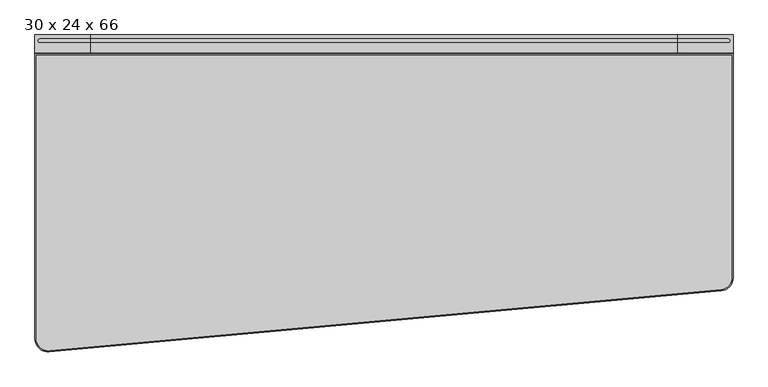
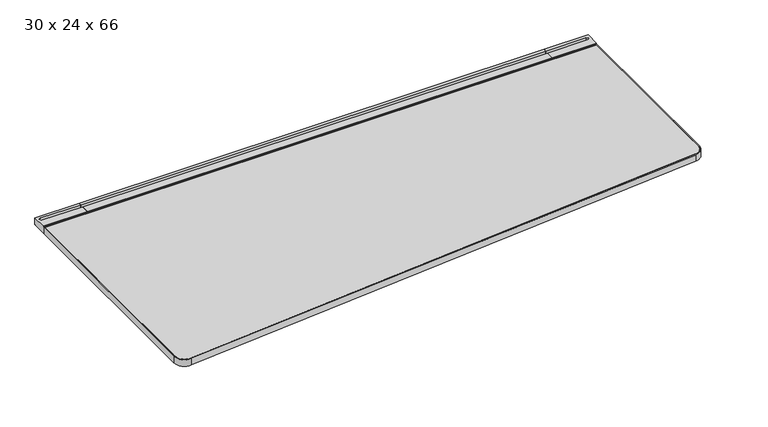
"""IFC4 building model written with IfcOpenShell, lengths in millimetres: furniture geometry, Steelcase - C Scape - Desking - Left Hand Tapered : 30 x 24 x 66."""

from ifc_helpers import new_model, si_unit, point, frame, frame_2d, origin, place, context, project, spatial, polyline, circle_curve, trimmed, segment, composite_curve, outline, extrude, faceted_brep, source, transform, mapped, element, save
from ifc_brep_helpers import plane_surface, cylinder_surface, revolved_surface, advanced_brep


def furniture_30_x_24_x_66_3c1ac4ce(model_context):
    return source(origin(), model_context, "Body", "SolidModel", [
        advanced_brep(
        [(134.6072876, -45.3135132, 703.3768), (134.6072876, -4.0331902, 703.3768), (134.6072876, -3.2278472, 705.1038636), (134.6072876, 0.0, 705.1038636), (134.6072876, 0.0, 725.932), (134.6072876, -8.5111084, 725.932), (134.6072876, -8.5111084, 713.486), (134.6072876, -19.3290527, 713.486), (134.6072876, -19.3290527, 725.932), (134.6072876, -42.7750923, 725.932), (134.6072876, -42.7750923, 722.4268341), (134.6072876, -45.3135132, 722.4268341), (1.5875, -45.3135132, 703.3768), (1.5875, -45.3135132, 722.4268341), (1.5875, -42.7750923, 722.4268341), (1.5875, -42.7750923, 725.932), (1.5875, 0.0, 725.932), (1.5875, 0.0, 705.1038636), (1.5875, -3.2278472, 705.1038636), (1.5875, -4.0331902, 703.3768), (13.3495728, -19.3290527, 725.932), (13.3495728, -8.5111084, 725.932), (13.3495728, -8.5111084, 713.486), (13.3495728, -19.3290527, 713.486)],
        [
            (0, 1),
            (1, 2),
            (2, 3),
            (3, 4),
            (4, 5),
            (5, 6),
            (6, 7),
            (7, 8),
            (8, 9),
            (9, 10),
            (10, 11),
            (11, 0),
            (12, 13),
            (13, 14),
            (14, 15),
            (15, 16),
            (16, 17),
            (17, 18),
            (18, 19),
            (19, 12),
            (0, 12),
            (19, 1),
            (18, 2),
            (17, 3),
            (16, 4),
            (15, 9),
            (8, 20),
            (20, 21, circle_curve(frame((13.3495728, -13.9200806, 725.932), z_axis=(0.0, 0.0, -1.0), x_axis=(1.0, 0.0, 0.0)), 5.4089722)),
            (21, 5),
            (14, 10),
            (13, 11),
            (6, 22),
            (22, 23, circle_curve(frame((13.3495728, -13.9200806, 713.486), z_axis=(0.0, 0.0, 1.0), x_axis=(1.0, 0.0, 0.0)), 5.4089722)),
            (23, 7),
            (21, 22),
            (20, 23),
        ],
        [
            plane_surface(frame((134.6072876, -45.3135132, 703.3768), z_axis=(1.0, 0.0, 0.0), x_axis=(0.0, 1.0, 0.0))),
            plane_surface(frame((1.5875, -45.3135132, 703.3768), z_axis=(-1.0, 0.0, 0.0), x_axis=(0.0, -1.0, 0.0))),
            plane_surface(frame((134.6072876, -45.3135132, 703.3768), z_axis=(0.0, 0.0, -1.0), x_axis=(-1.0, 0.0, 0.0))),
            plane_surface(frame((134.6072876, -4.0331902, 703.3768), z_axis=(0.0, 0.9063077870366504, -0.4226182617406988), x_axis=(-1.0, 0.0, 0.0))),
            plane_surface(frame((134.6072876, -3.2278472, 705.1038636), z_axis=(0.0, 0.0, -1.0), x_axis=(-1.0, 0.0, 0.0))),
            plane_surface(frame((134.6072876, 0.0, 705.1038636), z_axis=(0.0, 1.0, 0.0), x_axis=(-1.0, 0.0, 0.0))),
            plane_surface(frame((134.6072876, 0.0, 725.932), z_axis=(0.0, 0.0, 1.0), x_axis=(-1.0, 0.0, 0.0))),
            plane_surface(frame((134.6072876, -42.7750923, 725.932), z_axis=(0.0, -1.0, 0.0), x_axis=(-1.0, 0.0, 0.0))),
            plane_surface(frame((134.6072876, -42.7750923, 722.4268341), z_axis=(0.0, 0.0, 1.0), x_axis=(-1.0, 0.0, 0.0))),
            plane_surface(frame((134.6072876, -45.3135132, 722.4268341), z_axis=(0.0, -1.0, 0.0), x_axis=(-1.0, 0.0, 0.0))),
            plane_surface(frame((13.3495728, -8.5111084, 713.486), z_axis=(0.0, 0.0, 1.0), x_axis=(1.0, 0.0, 0.0))),
            plane_surface(frame((134.6072876, -8.5111084, 731.2180541), z_axis=(0.0, -1.0, 0.0), x_axis=(0.0, 0.0, -1.0))),
            revolved_surface(polyline([(18.758545, -13.9200806, 725.932), (18.758545, -13.9200806, 713.486)]), (13.3495728, -13.9200806, 713.486), (0.0, 0.0, 1.0)),
            plane_surface(frame((13.3495728, -19.3290527, 731.2180541), z_axis=(0.0, 1.0, 0.0), x_axis=(0.0, 0.0, -1.0))),
        ],
        [
            (0, [[1, 2, 3, 4, 5, 6, 7, 8, 9, 10, 11, 12]]),
            (1, [[13, 14, 15, 16, 17, 18, 19, 20]]),
            (2, [[-1, 21, -20, 22]]),
            (3, [[-2, -22, -19, 23]]),
            (4, [[-3, -23, -18, 24]]),
            (5, [[-4, -24, -17, 25]]),
            (6, [[-16, 26, -9, 27, 28, 29, -5, -25]]),
            (7, [[-10, -26, -15, 30]]),
            (8, [[-11, -30, -14, 31]]),
            (9, [[-12, -31, -13, -21]]),
            (10, [[32, 33, 34, -7]]),
            (11, [[-32, -6, -29, 35]]),
            (12, [[-33, -35, -28, 36]]),
            (13, [[-34, -36, -27, -8]]),
        ],
    ),
        faceted_brep([(20.6382632, -565.0752923, 700.7093833), (34.9133728, -565.0752923, 693.4200291), (116.3525879, -565.0752923, 693.4200291), (118.9731301, -565.0752923, 679.3263935), (134.6072876, -565.0752923, 679.3263935), (134.6072876, -565.0752923, 703.3768), (20.6382632, -565.0752923, 703.3768), (20.6382632, -4.0331902, 700.7093833), (20.6382632, -4.0331902, 703.3768), (134.6072876, -4.0331902, 703.3768), (134.6072876, -4.0331902, 629.3866), (128.2588347, -4.0331902, 629.3866), (116.3525879, -4.0331902, 693.4200291), (34.9133728, -4.0331902, 693.4200291), (128.2588347, -364.1172546, 629.3866), (121.1384051, -376.5599397, 667.6812472), (134.6072876, -364.1172546, 629.3866), (134.6072876, -376.5599397, 667.6812472)], [[[0, 1, 2, 3, 4, 5, 6]], [[7, 8, 9, 10, 11, 12, 13]], [[1, 0, 7, 13]], [[2, 1, 13, 12]], [[12, 11, 14, 15, 3, 2]], [[11, 10, 16, 14]], [[10, 9, 5, 4, 17, 16]], [[6, 5, 9, 8]], [[0, 6, 8, 7]], [[15, 17, 4, 3]], [[17, 15, 14, 16]]]),
        extrude(outline(composite_curve([segment(polyline([(-293.5216187, 657.3775839), (-559.0022133, 680.1371551)]), True, "CONTINUOUS"), segment(trimmed(circle_curve(frame_2d((-558.7581271, 682.9843154)), 2.8576039), [point((-559.0022133, 680.1371551))], [point((-561.5383043, 682.3236226))], False, "CARTESIAN"), True, "CONTINUOUS"), segment(polyline([(-561.5383043, 682.3236226), (-566.0887542, 701.4717905), (-557.8334441, 701.4717905), (-557.8334441, 703.3768), (-442.6683806, 703.3768), (-442.6683806, 696.3917953), (-318.2108611, 696.3917953), (-318.2108611, 703.3768), (-293.5216187, 703.3768), (-293.5216187, 657.3775839)]), True, "CONTINUOUS")], self_intersect=False)), frame((801.624, 0.0, 0.0), z_axis=(1.0, 0.0, 0.0), x_axis=(0.0, 1.0, 0.0)), (0.0, 0.0, 1.0), 73.152),
        advanced_brep(
        [(1541.7927124, -45.3135132, 703.3768), (1541.7927124, -45.3135132, 722.4268341), (1541.7927124, -42.7750923, 722.4268341), (1541.7927124, -42.7750923, 725.932), (1541.7927124, -19.3290527, 725.932), (1541.7927124, -19.3290527, 713.486), (1541.7927124, -8.5111084, 713.486), (1541.7927124, -8.5111084, 725.932), (1541.7927124, 0.0, 725.932), (1541.7927124, 0.0, 705.1038636), (1541.7927124, -3.2278472, 705.1038636), (1541.7927124, -4.0331902, 703.3768), (1674.8125, -45.3135132, 703.3768), (1674.8125, -4.0331902, 703.3768), (1674.8125, -3.2278472, 705.1038636), (1674.8125, 0.0, 705.1038636), (1674.8125, 0.0, 725.932), (1674.8125, -42.7750923, 725.932), (1674.8125, -42.7750923, 722.4268341), (1674.8125, -45.3135132, 722.4268341), (1663.0504272, -8.5111084, 725.932), (1663.0504272, -19.3290527, 725.932), (1663.0504272, -19.3290527, 713.486), (1663.0504272, -8.5111084, 713.486)],
        [
            (0, 1),
            (1, 2),
            (2, 3),
            (3, 4),
            (4, 5),
            (5, 6),
            (6, 7),
            (7, 8),
            (8, 9),
            (9, 10),
            (10, 11),
            (11, 0),
            (12, 13),
            (13, 14),
            (14, 15),
            (15, 16),
            (16, 17),
            (17, 18),
            (18, 19),
            (19, 12),
            (11, 13),
            (12, 0),
            (10, 14),
            (9, 15),
            (8, 16),
            (7, 20),
            (20, 21, circle_curve(frame((1663.0504272, -13.9200806, 725.932), z_axis=(0.0, 0.0, -1.0), x_axis=(-1.0, 0.0, 0.0)), 5.4089722)),
            (21, 4),
            (3, 17),
            (2, 18),
            (1, 19),
            (5, 22),
            (22, 23, circle_curve(frame((1663.0504272, -13.9200806, 713.486), z_axis=(0.0, 0.0, 1.0), x_axis=(-1.0, 0.0, 0.0)), 5.4089722)),
            (23, 6),
            (23, 20),
            (22, 21),
        ],
        [
            plane_surface(frame((1541.7927124, -45.3135132, 703.3768), z_axis=(-1.0, 0.0, 0.0), x_axis=(0.0, 1.0, 0.0))),
            plane_surface(frame((1674.8125, -45.3135132, 703.3768), z_axis=(1.0, 0.0, 0.0), x_axis=(0.0, -1.0, 0.0))),
            plane_surface(frame((1541.7927124, -45.3135132, 703.3768), z_axis=(0.0, 0.0, -1.0), x_axis=(1.0, 0.0, 0.0))),
            plane_surface(frame((1541.7927124, -4.0331902, 703.3768), z_axis=(0.0, 0.9063077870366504, -0.4226182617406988), x_axis=(1.0, 0.0, 0.0))),
            plane_surface(frame((1541.7927124, -3.2278472, 705.1038636), z_axis=(0.0, 0.0, -1.0), x_axis=(1.0, 0.0, 0.0))),
            plane_surface(frame((1541.7927124, 0.0, 705.1038636), z_axis=(0.0, 1.0, 0.0), x_axis=(1.0, 0.0, 0.0))),
            plane_surface(frame((1541.7927124, 0.0, 725.932), z_axis=(0.0, 0.0, 1.0), x_axis=(1.0, 0.0, 0.0))),
            plane_surface(frame((1541.7927124, -42.7750923, 725.932), z_axis=(0.0, -1.0, 0.0), x_axis=(1.0, 0.0, 0.0))),
            plane_surface(frame((1541.7927124, -42.7750923, 722.4268341), z_axis=(0.0, 0.0, 1.0), x_axis=(1.0, 0.0, 0.0))),
            plane_surface(frame((1541.7927124, -45.3135132, 722.4268341), z_axis=(0.0, -1.0, 0.0), x_axis=(1.0, 0.0, 0.0))),
            plane_surface(frame((1663.0504272, -8.5111084, 713.486), z_axis=(0.0, 0.0, 1.0), x_axis=(-1.0, 0.0, 0.0))),
            plane_surface(frame((1541.7927124, -8.5111084, 731.2180541), z_axis=(0.0, -1.0, 0.0), x_axis=(0.0, 0.0, -1.0))),
            revolved_surface(polyline([(1657.641455, -13.9200806, 725.932), (1657.641455, -13.9200806, 713.486)]), (1663.0504272, -13.9200806, 713.486), (0.0, 0.0, 1.0)),
            plane_surface(frame((1663.0504272, -19.3290527, 731.2180541), z_axis=(0.0, 1.0, 0.0), x_axis=(0.0, 0.0, -1.0))),
        ],
        [
            (0, [[1, 2, 3, 4, 5, 6, 7, 8, 9, 10, 11, 12]]),
            (1, [[13, 14, 15, 16, 17, 18, 19, 20]]),
            (2, [[21, -13, 22, -12]]),
            (3, [[23, -14, -21, -11]]),
            (4, [[24, -15, -23, -10]]),
            (5, [[25, -16, -24, -9]]),
            (6, [[-25, -8, 26, 27, 28, -4, 29, -17]]),
            (7, [[30, -18, -29, -3]]),
            (8, [[31, -19, -30, -2]]),
            (9, [[-22, -20, -31, -1]]),
            (10, [[-6, 32, 33, 34]]),
            (11, [[35, -26, -7, -34]]),
            (12, [[36, -27, -35, -33]]),
            (13, [[-5, -28, -36, -32]]),
        ],
    ),
        faceted_brep([(1655.7617368, -565.0752923, 700.7093833), (1655.7617368, -565.0752923, 703.3768), (1541.7927124, -565.0752923, 703.3768), (1541.7927124, -565.0752923, 679.3263935), (1557.4268699, -565.0752923, 679.3263935), (1560.0474121, -565.0752923, 693.4200291), (1641.4866272, -565.0752923, 693.4200291), (1655.7617368, -4.0331902, 700.7093833), (1641.4866272, -4.0331902, 693.4200291), (1560.0474121, -4.0331902, 693.4200291), (1548.1411653, -4.0331902, 629.3866), (1541.7927124, -4.0331902, 629.3866), (1541.7927124, -4.0331902, 703.3768), (1655.7617368, -4.0331902, 703.3768), (1555.2615949, -376.5599397, 667.6812472), (1548.1411653, -364.1172546, 629.3866), (1541.7927124, -364.1172546, 629.3866), (1541.7927124, -376.5599397, 667.6812472)], [[[0, 1, 2, 3, 4, 5, 6]], [[7, 8, 9, 10, 11, 12, 13]], [[6, 8, 7, 0]], [[5, 9, 8, 6]], [[9, 5, 4, 14, 15, 10]], [[10, 15, 16, 11]], [[11, 16, 17, 3, 2, 12]], [[1, 13, 12, 2]], [[0, 7, 13, 1]], [[14, 4, 3, 17]], [[17, 16, 15, 14]]]),
        extrude(outline(polyline([(-8.5111084, 725.932), (0.0, 725.932), (0.0, 705.1038636), (-3.2278472, 705.1038636), (-4.0331902, 703.3768), (-45.3135132, 703.3768), (-45.3135132, 722.4268341), (-42.7750923, 722.4268341), (-42.7750923, 725.932), (-19.3290527, 725.932), (-19.3290527, 713.486), (-8.5111084, 713.486), (-8.5111084, 725.932)])), frame((134.6072876, 0.0, 0.0), z_axis=(1.0, 0.0, 0.0), x_axis=(0.0, 1.0, 0.0)), (0.0, 0.0, 1.0), 1407.1854248),
        extrude(outline(polyline([(1541.7927124, -4.0331902), (1541.7927124, -293.5216187), (134.6072876, -293.5216187), (134.6072876, -4.0331902), (1541.7927124, -4.0331902)])), frame((0.0, 0.0, 629.3866), z_axis=(0.0, 0.0, 1.0), x_axis=(1.0, 0.0, 0.0)), (0.0, 0.0, 1.0), 73.9902),
        extrude(outline(composite_curve([segment(polyline([(1671.7645, -48.3660689), (1671.7645, -581.0845942)]), True, "CONTINUOUS"), segment(trimmed(circle_curve(frame_2d((1642.459299, -581.0845942)), 29.305201), [point((1671.7645, -581.0845942))], [point((1645.3931119, -610.2425699))], False, "CARTESIAN"), True, "CONTINUOUS"), segment(polyline([(1645.3931119, -610.2425699), (36.8381677, -756.7577516)]), True, "CONTINUOUS"), segment(trimmed(circle_curve(frame_2d((33.9076624, -727.6326485)), 29.2721624), [point((36.8381677, -756.7577516))], [point((4.6355, -727.6326485))], False, "CARTESIAN"), True, "CONTINUOUS"), segment(polyline([(4.6355, -727.6326485), (4.6355, -48.3660689), (1671.7645, -48.3660689)]), True, "CONTINUOUS")], self_intersect=False)), frame((0.0, 0.0, 703.3768), z_axis=(0.0, 0.0, 1.0), x_axis=(1.0, 0.0, 0.0)), (0.0, 0.0, 1.0), 20.5232),
        advanced_brep(
        [(4.6384766, -48.3660689, 703.3768), (4.6384766, -48.3660689, 723.9), (4.6384766, -727.9545671, 723.9), (4.6384766, -727.9545671, 703.3768), (1.5875, -45.3150923, 723.9), (1.5875, -45.3150923, 703.3768), (1.5875, -727.9545671, 703.3768), (1.5875, -727.9545671, 723.9), (36.1990786, -756.5105703, 703.3768), (36.1990786, -756.5105703, 723.9), (36.5032914, -759.5463424, 723.9), (36.5032914, -759.5463424, 703.3768), (1645.9526326, -610.4702467, 723.9), (1645.9526326, -610.4702467, 703.3768), (1646.2282914, -613.5087448, 703.3768), (1646.2282914, -613.5087448, 723.9), (1671.7615234, -581.9169695, 703.3768), (1671.7615234, -581.9169695, 723.9), (1674.8125, -581.9169695, 703.3768), (1674.8125, -45.3150923, 703.3768), (1671.7615234, -48.3660689, 703.3768), (1674.8125, -581.9169695, 723.9), (1674.8125, -45.3150923, 723.9), (1671.7615234, -48.3660689, 723.9)],
        [
            (0, 1),
            (1, 2),
            (2, 3),
            (3, 0),
            (4, 5),
            (5, 6),
            (6, 7),
            (7, 4),
            (8, 3, circle_curve(frame((33.3375, -727.9545671, 703.3768), z_axis=(0.0, 0.0, -1.0), x_axis=(-1.0, 0.0, 0.0)), 28.6990234)),
            (2, 9, circle_curve(frame((33.3375, -727.9545671, 723.9), z_axis=(0.0, 0.0, 1.0), x_axis=(-1.0, 0.0, 0.0)), 28.6990234)),
            (9, 8),
            (10, 7, circle_curve(frame((33.3375, -727.9545671, 723.9), z_axis=(0.0, 0.0, -1.0), x_axis=(-1.0, 0.0, 0.0)), 31.75)),
            (6, 11, circle_curve(frame((33.3375, -727.9545671, 703.3768), z_axis=(0.0, 0.0, 1.0), x_axis=(-1.0, 0.0, 0.0)), 31.75)),
            (11, 10),
            (9, 12),
            (12, 13),
            (13, 8),
            (11, 14),
            (14, 15),
            (15, 10),
            (16, 13, circle_curve(frame((1643.0625, -581.9169695, 703.3768), z_axis=(0.0, 0.0, -1.0), x_axis=(0.09970996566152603, -0.9950165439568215, 0.0)), 28.6990234)),
            (12, 17, circle_curve(frame((1643.0625, -581.9169695, 723.9), z_axis=(0.0, 0.0, 1.0), x_axis=(0.09970996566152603, -0.9950165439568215, 0.0)), 28.6990234)),
            (17, 16),
            (18, 14, circle_curve(frame((1643.0625, -581.9169695, 703.3768), z_axis=(0.0, 0.0, -1.0), x_axis=(0.09970996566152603, -0.9950165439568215, 0.0)), 31.75)),
            (5, 19),
            (19, 18),
            (16, 20),
            (20, 0),
            (21, 15, circle_curve(frame((1643.0625, -581.9169695, 723.9), z_axis=(0.0, 0.0, -1.0), x_axis=(0.09970996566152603, -0.9950165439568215, 0.0)), 31.75)),
            (18, 21),
            (21, 22),
            (22, 4),
            (1, 23),
            (23, 17),
            (23, 20),
            (19, 22),
        ],
        [
            plane_surface(frame((4.6384766, -48.3660689, 723.9), z_axis=(1.0, 0.0, 0.0), x_axis=(0.0, -1.0, 0.0))),
            plane_surface(frame((1.5875, -45.3150923, 703.3768), z_axis=(-1.0, 0.0, 0.0), x_axis=(0.0, -1.0, 0.0))),
            revolved_surface(polyline([(4.638476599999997, -727.9545671, 723.9), (4.638476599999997, -727.9545671, 703.3768)]), (33.3375, -727.9545671, 0.0), (0.0, 0.0, 1.0)),
            cylinder_surface(frame((33.3375, -727.9545671, 0.0), z_axis=(0.0, 0.0, 1.0), x_axis=(-1.0, 0.0, 0.0)), 31.75),
            plane_surface(frame((36.1990652, -756.5104361, 723.9), z_axis=(-0.09035102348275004, 0.9959099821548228, 0.0), x_axis=(0.9959099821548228, 0.09035102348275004, 0.0))),
            plane_surface(frame((36.5032914, -759.5463424, 703.3768), z_axis=(0.09035102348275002, -0.9959099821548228, 0.0), x_axis=(0.9959099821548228, 0.09035102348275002, 0.0))),
            revolved_surface(polyline([(1645.9240786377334, -610.472972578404, 723.9), (1645.9240786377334, -610.472972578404, 703.3768)]), (1643.0625, -581.9169695, 0.0), (0.0, 0.0, 1.0)),
            plane_surface(frame((1643.0625, -581.9169695, 703.3768), z_axis=(0.0, 0.0, -1.0), x_axis=(0.09970996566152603, -0.9950165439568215, 0.0))),
            cylinder_surface(frame((1643.0625, -581.9169695, 0.0), z_axis=(0.0, 0.0, 1.0), x_axis=(0.09970996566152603, -0.9950165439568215, 0.0)), 31.75),
            plane_surface(frame((1643.0625, -581.9169695, 723.9), z_axis=(0.0, 0.0, 1.0), x_axis=(0.09970996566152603, -0.9950165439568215, 0.0))),
            plane_surface(frame((1671.7615234, -581.9169695, 723.9), z_axis=(-1.0, 0.0, 0.0), x_axis=(0.0, 1.0, 0.0))),
            plane_surface(frame((1674.8125, -581.9169695, 703.3768), z_axis=(1.0, 0.0, 0.0), x_axis=(0.0, 1.0, 0.0))),
            plane_surface(frame((1671.7615234, -48.3660689, 723.9), z_axis=(0.0, -1.0, 0.0), x_axis=(-1.0, 0.0, 0.0))),
            plane_surface(frame((1674.8125, -45.3150923, 703.3768), z_axis=(0.0, 1.0, 0.0), x_axis=(-1.0, 0.0, 0.0))),
        ],
        [
            (0, [[1, 2, 3, 4]]),
            (1, [[5, 6, 7, 8]]),
            (2, [[9, -3, 10, 11]]),
            (3, [[12, -7, 13, 14]]),
            (4, [[-11, 15, 16, 17]]),
            (5, [[-14, 18, 19, 20]]),
            (6, [[21, -16, 22, 23]]),
            (7, [[24, -18, -13, -6, 25, 26], [-9, -17, -21, 27, 28, -4]]),
            (8, [[29, -19, -24, 30]]),
            (9, [[-12, -20, -29, 31, 32, -8], [-22, -15, -10, -2, 33, 34]]),
            (10, [[-23, -34, 35, -27]]),
            (11, [[-30, -26, 36, -31]]),
            (12, [[-35, -33, -1, -28]]),
            (13, [[-36, -25, -5, -32]]),
        ],
    ),
    ])


if __name__ == "__main__":
    model = new_model("IFC4")
    model_context = context("Model", 3, world=origin())
    ifc_project = project(units=[si_unit("LENGTHUNIT", "METRE", prefix="MILLI")], contexts=[model_context])
    site = spatial("IfcSite", under=ifc_project)
    building = spatial("IfcBuilding", under=site)
    placement = place(None, origin())
    furniture_30_x_24_x_66_shape = furniture_30_x_24_x_66_3c1ac4ce(model_context)
    element("IfcFurniture", 1, ObjectType="Steelcase - C Scape - Desking - Left Hand Tapered : 30 x 24 x 66", at=placement, inside=building, context=model_context, shape_type="MappedRepresentation", body=[
        mapped(furniture_30_x_24_x_66_shape, transform((0.0, 0.0, 0.0), x_axis=(1.0, 0.0, 0.0), y_axis=(0.0, 1.0, 0.0), z_axis=(0.0, 0.0, 1.0))),
    ])
    save(model, "model.ifc")
